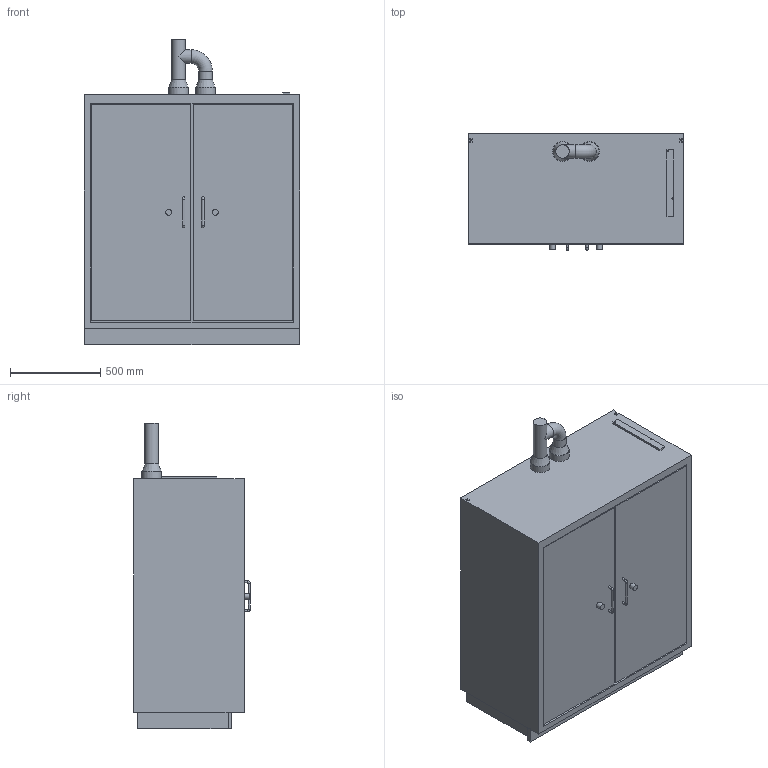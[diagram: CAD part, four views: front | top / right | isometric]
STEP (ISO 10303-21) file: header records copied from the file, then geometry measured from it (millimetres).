
FILE_DESCRIPTION(/* description */ ('Unknown'),/* implementation_level */ '2;1');
FILE_NAME(/* name */ 'BATTERY standard XS_D00110095',/* time_stamp */ '2021-02-01T07:29:44+01:00',/* author */ ('Unknown'),/* organization */ ('Unknown'),/* preprocessor_version */ 'ST-DEVELOPER v16.7',/* originating_system */ 'Solid Edge',/* authorisation */ 'Unknown');
FILE_SCHEMA (('AUTOMOTIVE_DESIGN {1 0 10303 214 3 1 1}'));
Length unit declared in the file: millimetre
Products named in the file (1): BATTERY standard XS_D00110095
Bounding box: 1194 x 647 x 1691 mm (x, y, z)
Volume: 951511905.7 mm3; surface area: 7542963.9 mm2
Topology: 1 solids, 1 shells, 96 faces, 229 edges, 152 vertices
Faces by surface type: plane 68, cylinder 21, torus 5, cone 2
Full cylindrical faces by diameter (mm): 6.2 x2, 7.5 x2, 12 x6, 30 x4, 32 x2, 75 x3, 109.5 x2
Entity records: 3228 total; most frequent: DIRECTION 428, CARTESIAN_POINT 427, ORIENTED_EDGE 378, EDGE_CURVE 189, EDGE_LOOP 148, FACE_BOUND 148, LINE 144, VECTOR 144
